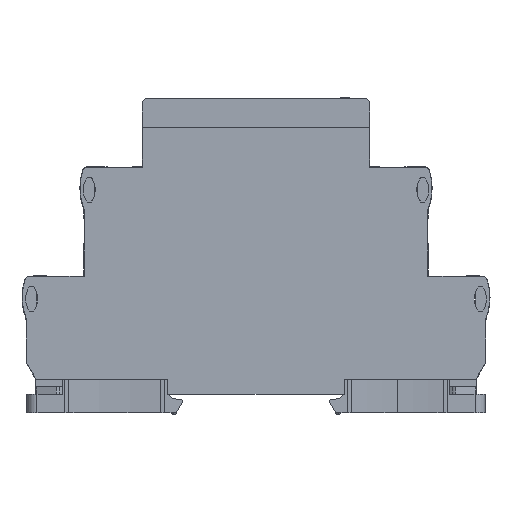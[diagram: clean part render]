
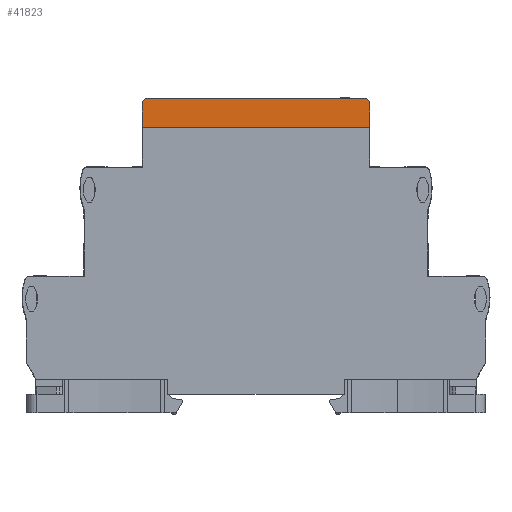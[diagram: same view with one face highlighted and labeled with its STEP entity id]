
A CAD part, top view. The second image highlights one B-rep face of the part: STEP entity #41823.
In plain terms, the highlighted planar face has unit normal (0, 0, 1) as drawn and (1, 0, 0) by its records, which use the part's own axes.
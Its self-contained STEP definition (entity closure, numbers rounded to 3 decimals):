
#17362 = AXIS2_PLACEMENT_3D ( 'NONE', #25183, #25188, #25189 ) ;
#23596 = FACE_OUTER_BOUND ( 'NONE', #62213, .T. ) ;
#25182 = PLANE ( 'NONE',  #17362 ) ;
#25183 = CARTESIAN_POINT ( 'NONE',  ( 6.5, -22.6, 1.5 ) ) ;
#25188 = DIRECTION ( 'NONE',  ( -1., 0., 0. ) ) ;
#25189 = DIRECTION ( 'NONE',  ( 0., 0., 1. ) ) ;
#34155 = AXIS2_PLACEMENT_3D ( 'NONE', #49364, #49365, #49366 ) ;
#34157 = AXIS2_PLACEMENT_3D ( 'NONE', #49369, #49370, #49371 ) ;
#41823 = ADVANCED_FACE ( 'NONE', ( #23596 ), #25182, .F. ) ;
#44436 = LINE ( 'NONE', #49297, #44442 ) ;
#44442 = VECTOR ( 'NONE', #49300, 1000. ) ;
#44496 = LINE ( 'NONE', #49352, #44502 ) ;
#44502 = VECTOR ( 'NONE', #49354, 1000. ) ;
#44512 = LINE ( 'NONE', #49360, #44518 ) ;
#44516 = CIRCLE ( 'NONE', #34155, 1. ) ;
#44518 = VECTOR ( 'NONE', #49361, 1000. ) ;
#44520 = LINE ( 'NONE', #49357, #44524 ) ;
#44522 = CIRCLE ( 'NONE', #34157, 1. ) ;
#44524 = VECTOR ( 'NONE', #49353, 1000. ) ;
#49297 = CARTESIAN_POINT ( 'NONE',  ( 6.5, 0., 5.75 ) ) ;
#49300 = DIRECTION ( 'NONE',  ( 0., 1., 0. ) ) ;
#49352 = CARTESIAN_POINT ( 'NONE',  ( 6.5, -22.6, 1.5 ) ) ;
#49353 = DIRECTION ( 'NONE',  ( 0., 0., -1. ) ) ;
#49354 = DIRECTION ( 'NONE',  ( 0., 0., -1. ) ) ;
#49357 = CARTESIAN_POINT ( 'NONE',  ( 6.5, 22.6, 1.5 ) ) ;
#49360 = CARTESIAN_POINT ( 'NONE',  ( 6.5, -22.6, 0. ) ) ;
#49361 = DIRECTION ( 'NONE',  ( 0., 1., 0. ) ) ;
#49364 = CARTESIAN_POINT ( 'NONE',  ( 6.5, 21.6, 1. ) ) ;
#49365 = DIRECTION ( 'NONE',  ( 1., 0., 0. ) ) ;
#49366 = DIRECTION ( 'NONE',  ( 0., 0., 1. ) ) ;
#49369 = CARTESIAN_POINT ( 'NONE',  ( 6.5, -21.6, 1. ) ) ;
#49370 = DIRECTION ( 'NONE',  ( 1., 0., 0. ) ) ;
#49371 = DIRECTION ( 'NONE',  ( 0., 0., 1. ) ) ;
#58142 = EDGE_CURVE ( 'NONE', #64601, #65408, #44436, .T. ) ;
#58173 = EDGE_CURVE ( 'NONE', #64601, #62868, #44496, .T. ) ;
#58182 = EDGE_CURVE ( 'NONE', #63818, #63515, #44512, .T. ) ;
#58185 = EDGE_CURVE ( 'NONE', #63515, #63044, #44516, .T. ) ;
#58186 = EDGE_CURVE ( 'NONE', #65408, #63044, #44520, .T. ) ;
#58188 = EDGE_CURVE ( 'NONE', #62868, #63818, #44522, .T. ) ;
#61323 = CARTESIAN_POINT ( 'NONE',  ( 6.5, -22.6, 1. ) ) ;
#61477 = CARTESIAN_POINT ( 'NONE',  ( 6.5, 22.6, 1. ) ) ;
#61647 = CARTESIAN_POINT ( 'NONE',  ( 6.5, 21.6, 0. ) ) ;
#61787 = CARTESIAN_POINT ( 'NONE',  ( 6.5, -21.6, 0. ) ) ;
#62213 = EDGE_LOOP ( 'NONE', ( #66331, #66332, #66333, #66334, #66336, #66338 ) ) ;
#62868 = VERTEX_POINT ( 'NONE', #61323 ) ;
#63044 = VERTEX_POINT ( 'NONE', #61477 ) ;
#63501 = CARTESIAN_POINT ( 'NONE',  ( 6.5, -22.6, 5.75 ) ) ;
#63515 = VERTEX_POINT ( 'NONE', #61647 ) ;
#63818 = VERTEX_POINT ( 'NONE', #61787 ) ;
#64225 = CARTESIAN_POINT ( 'NONE',  ( 6.5, 22.6, 5.75 ) ) ;
#64601 = VERTEX_POINT ( 'NONE', #63501 ) ;
#65408 = VERTEX_POINT ( 'NONE', #64225 ) ;
#66331 = ORIENTED_EDGE ( 'NONE', *, *, #58182, .T. ) ;
#66332 = ORIENTED_EDGE ( 'NONE', *, *, #58185, .T. ) ;
#66333 = ORIENTED_EDGE ( 'NONE', *, *, #58186, .F. ) ;
#66334 = ORIENTED_EDGE ( 'NONE', *, *, #58142, .F. ) ;
#66336 = ORIENTED_EDGE ( 'NONE', *, *, #58173, .T. ) ;
#66338 = ORIENTED_EDGE ( 'NONE', *, *, #58188, .T. ) ;
